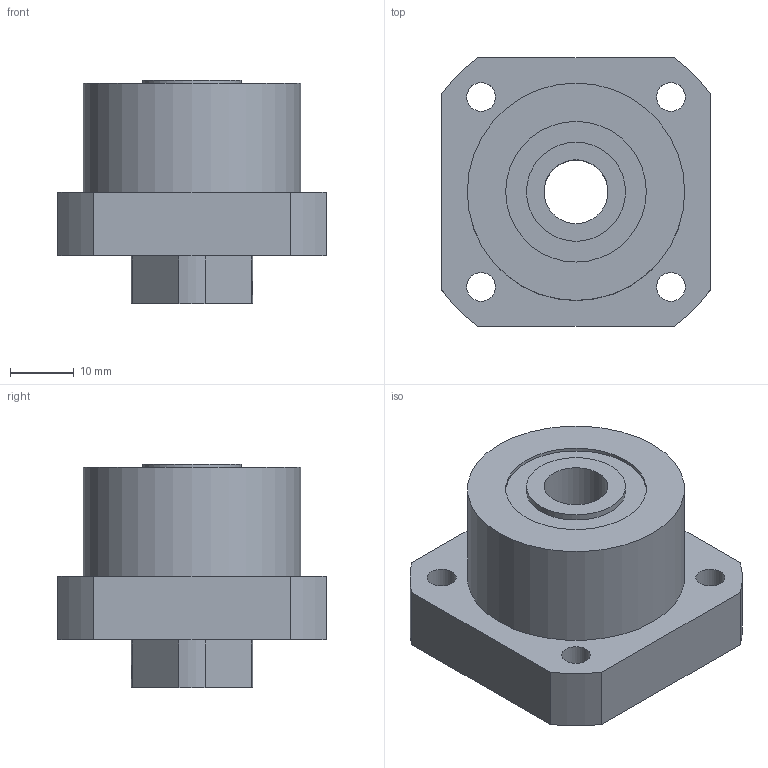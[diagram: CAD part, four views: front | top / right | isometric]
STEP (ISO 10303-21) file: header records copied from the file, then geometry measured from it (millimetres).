
FILE_DESCRIPTION(/* description */ (''),/* implementation_level */ '2;1');
FILE_NAME(/* name */ 'C:\Users\tenki620635\Desktop\官網\圖面\軸承座\3D\setp檔\FK10-Atype.stp',/* time_stamp */ '2020-12-18T19:55:55+08:00',/* author */ ('tenki620635'),/* organization */ (''),/* preprocessor_version */ 'ST-DEVELOPER v15.2',/* originating_system */ 'Autodesk Inventor 2014',/* authorisation */ '');
FILE_SCHEMA (('AUTOMOTIVE_DESIGN { 1 0 10303 214 3 1 1 }'));
Length unit declared in the file: millimetre
Products named in the file (1): FK10-Atype
Bounding box: 42 x 42 x 35 mm (x, y, z)
Volume: 29976 mm3; surface area: 9274.4 mm2
Topology: 1 solids, 1 shells, 46 faces, 106 edges, 72 vertices
Faces by surface type: cylinder 25, plane 21
Full cylindrical faces by diameter (mm): 2.459 x2, 4.5 x4, 8 x4, 10 x1, 13 x1, 15.5 x2, 22 x2, 34 x1
Entity records: 1375 total; most frequent: CARTESIAN_POINT 335, DIRECTION 218, ORIENTED_EDGE 168, AXIS2_PLACEMENT_3D 93, EDGE_LOOP 88, EDGE_CURVE 84, VERTEX_POINT 68, FACE_BOUND 54
